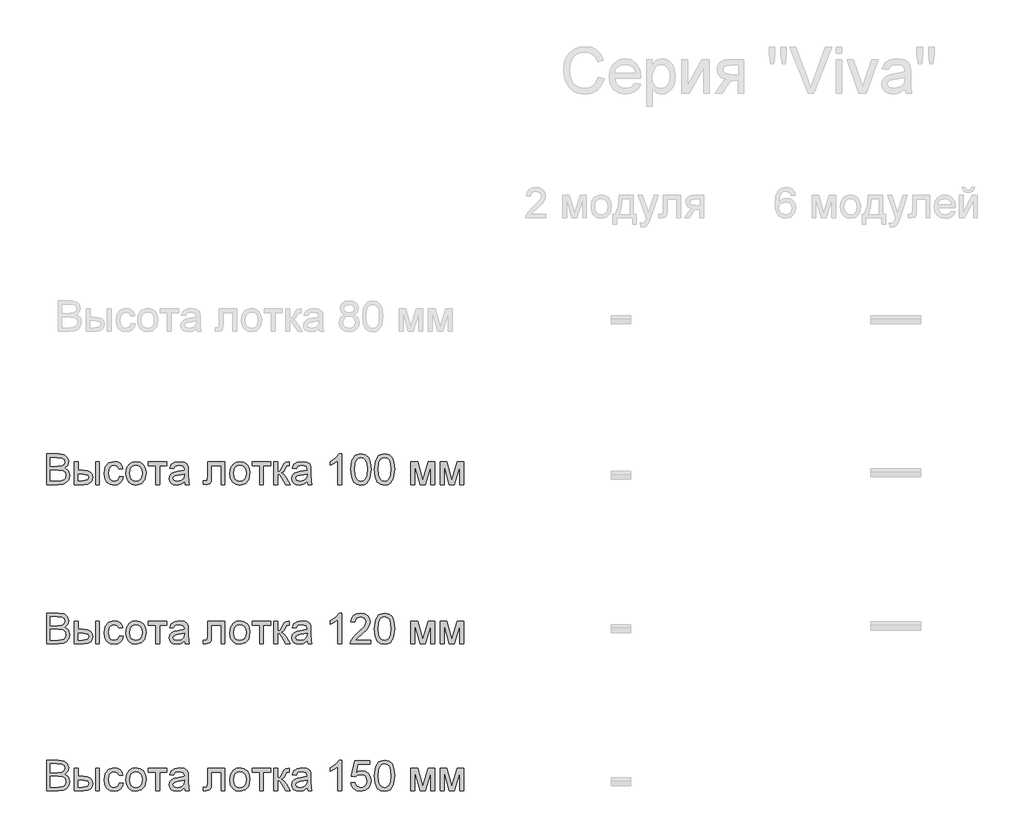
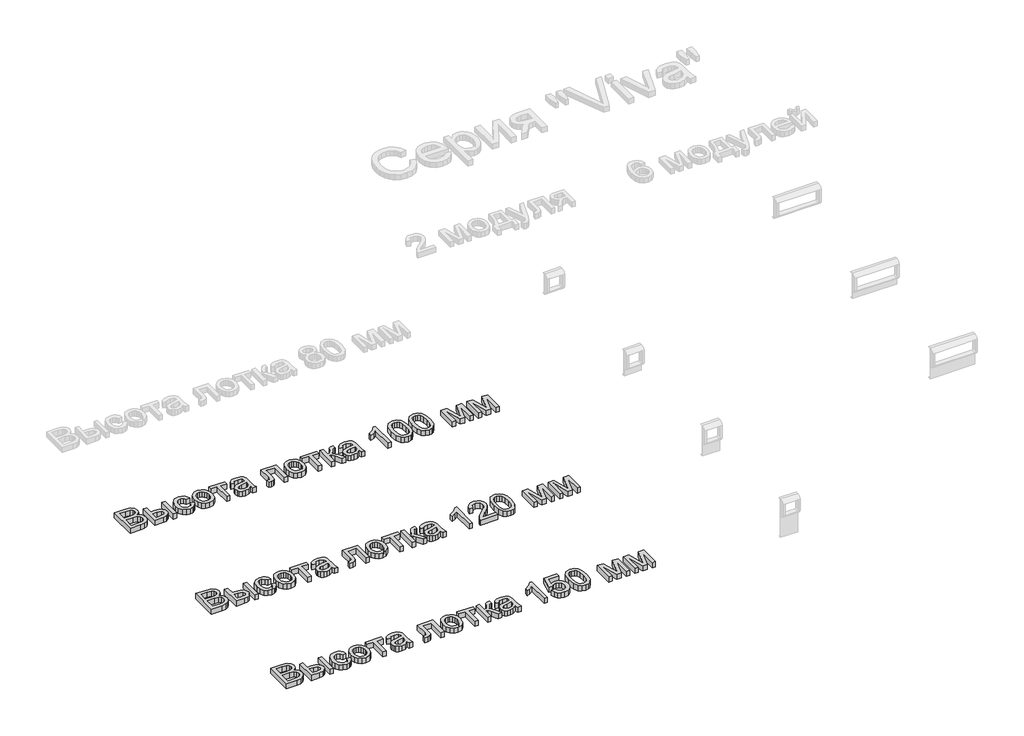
# One storey, part 7 of 28: 3 proxies.
"""IFC4 building model written with IfcOpenShell, lengths in millimetres."""

from ifc_helpers import new_model, si_unit, origin, origin_with_axes, place, context, project, spatial, polyline, outline, extrude, element, save

model = new_model("IFC4")

# Units and contexts
model_context = context("Model", 3, world=origin())
ifc_project = project(units=[si_unit("LENGTHUNIT", "METRE", prefix="MILLI")], contexts=[model_context])

# Site, building, storey
site = spatial("IfcSite", under=ifc_project)
building = spatial("IfcBuilding", under=site)
storey = spatial("IfcBuildingStorey", under=building, Name="Этаж 01", Elevation=0.0)

# Proxies
placement = place(None, origin())
element("IfcBuildingElementProxy", 1, Name="100 мм Arial", ObjectType="100 мм Arial", at=placement, inside=storey, context=model_context, shape_type="SweptSolid", body=[
    extrude(outline(polyline([(1837.0688437, -12466.5703412), (1837.0688437, -12366.114031), (1875.4021476, -12366.114031), (1894.1763921, -12369.0693497), (1905.2619029, -12378.156035), (1909.2718166, -12391.0073794), (1905.899565, -12402.742815), (1895.7092337, -12411.6332966), (1908.0823315, -12421.0020247), (1912.4110763, -12436.6247468), (1909.4557576, -12450.126016), (1902.1349059, -12459.7399988), (1891.2088107, -12464.8412958), (1875.107842, -12466.5703412), (1837.0688437, -12466.5703412)]), holes=[polyline([(1849.6258825, -12406.924407), (1872.5571935, -12406.924407), (1885.9480981, -12405.8452865), (1894.0047138, -12401.1977106), (1896.7147778, -12393.0184676), (1894.1886548, -12384.8269619), (1886.9536422, -12379.9831823), (1870.8158854, -12378.6710698), (1849.6258825, -12378.6710698), (1849.6258825, -12406.924407)]), polyline([(1849.6258825, -12454.0133024), (1875.3776221, -12454.0133024), (1884.6972993, -12453.5227931), (1892.5822368, -12450.7882036), (1897.8061611, -12445.20866), (1899.8540375, -12436.7473741), (1897.4505418, -12426.9862385), (1889.6637063, -12421.1614402), (1874.1513488, -12419.4814458), (1849.6258825, -12419.4814458), (1849.6258825, -12454.0133024)])]), origin_with_axes(), (0.0, 0.0, 1.0), 20.0),
    extrude(outline(polyline([(1997.171088, -12392.7977384), (2009.7281268, -12392.7977384), (2009.7281268, -12466.5703412), (1997.171088, -12466.5703412), (1997.171088, -12392.7977384)])), origin_with_axes(), (0.0, 0.0, 1.0), 20.0),
    extrude(outline(polyline([(1928.1073748, -12392.7977384), (1940.6644135, -12392.7977384), (1940.6644135, -12419.4814458), (1956.1890337, -12419.4814458), (1969.6075295, -12421.0541413), (1979.5495404, -12425.7722279), (1985.7023668, -12433.2555608), (1987.7533089, -12443.1239954), (1986.0334606, -12452.1095131), (1980.8739156, -12459.6909479), (1971.9374488, -12464.8504929), (1958.886835, -12466.5703412), (1928.1073748, -12466.5703412), (1928.1073748, -12392.7977384)]), holes=[polyline([(1940.6644135, -12454.0133024), (1953.5648088, -12454.0133024), (1970.2176005, -12451.3768148), (1975.1962702, -12443.1485208), (1971.5051875, -12435.4229989), (1955.2080151, -12432.0384846), (1940.6644135, -12432.0384846), (1940.6644135, -12454.0133024)])]), origin_with_axes(), (0.0, 0.0, 1.0), 20.0),
    extrude(outline(polyline([(2075.6525803, -12439.8866338), (2088.2096191, -12441.4562636), (2084.7086087, -12452.6245479), (2078.1296524, -12461.064374), (2069.0920181, -12466.3710718), (2058.2149737, -12468.139971), (2044.8577916, -12465.672096), (2034.4130086, -12458.2684708), (2027.6715711, -12446.254058), (2025.4244252, -12429.9538199), (2029.2626607, -12409.0949108), (2040.9613082, -12395.6917434), (2058.0432955, -12391.2281086), (2068.6536253, -12392.7609502), (2077.136371, -12397.3594752), (2083.2217524, -12404.7784287), (2086.6399892, -12414.7725563), (2074.0829505, -12416.3421861), (2068.2581522, -12406.9366698), (2058.1413973, -12403.7851473), (2050.0265337, -12405.3363831), (2043.5855331, -12409.9900903), (2039.3824813, -12417.9976551), (2037.981464, -12429.6104634), (2039.3518244, -12441.3796216), (2043.4629057, -12449.4147775), (2049.7874104, -12454.0408936), (2057.7980408, -12455.5829323), (2069.6315783, -12451.732434), (2075.6525803, -12439.8866338)])), origin_with_axes(), (0.0, 0.0, 1.0), 20.0),
    extrude(outline(polyline([(2096.0577683, -12429.6840398), (2098.7739637, -12411.8969453), (2106.9225499, -12399.3950889), (2116.9902538, -12393.2698536), (2129.0445205, -12391.2281086), (2142.2361557, -12393.7143777), (2152.7729092, -12401.1731852), (2159.6798937, -12413.0159197), (2161.9822218, -12428.6539702), (2157.9109944, -12450.9966701), (2146.0529314, -12463.639548), (2129.0445205, -12468.139971), (2115.6934698, -12465.6628989), (2105.168979, -12458.2316826), (2098.335571, -12446.1406277), (2096.0577683, -12429.6840398)]), holes=[polyline([(2108.6148071, -12429.6595143), (2110.0679409, -12441.0240023), (2114.4273426, -12449.1204719), (2120.9879048, -12453.9673172), (2129.0445205, -12455.5829323), (2137.064348, -12453.9581201), (2143.6126475, -12449.0836837), (2147.9720492, -12440.8799152), (2149.4251831, -12429.2671069), (2147.9628521, -12418.2337127), (2143.5758593, -12410.2476077), (2137.0183628, -12405.4007624), (2129.0445205, -12403.7851473), (2120.9879048, -12405.3946311), (2114.4273426, -12410.2230823), (2110.0679409, -12418.3011577), (2108.6148071, -12429.6595143)])]), origin_with_axes(), (0.0, 0.0, 1.0), 20.0),
    extrude(outline(polyline([(2169.8303711, -12392.7977384), (2229.4763052, -12392.7977384), (2229.4763052, -12405.3547772), (2205.9318575, -12405.3547772), (2205.9318575, -12466.5703412), (2193.3748188, -12466.5703412), (2193.3748188, -12405.3547772), (2169.8303711, -12405.3547772), (2169.8303711, -12392.7977384)])), origin_with_axes(), (0.0, 0.0, 1.0), 20.0),
    extrude(outline(polyline([(2287.5526095, -12457.1525621), (2275.3757155, -12465.6628989), (2261.9234972, -12468.139971), (2251.4296633, -12466.6500489), (2243.688813, -12462.1802827), (2238.9155441, -12455.3928599), (2237.3244544, -12446.9499681), (2239.7279501, -12437.0171542), (2246.0432577, -12429.8066671), (2254.8356374, -12425.6863888), (2265.700419, -12423.7979279), (2287.4790331, -12419.4814458), (2287.5526095, -12416.6855426), (2284.0945188, -12407.4149164), (2270.2131048, -12403.7851473), (2257.5089132, -12406.2009058), (2251.4511231, -12414.7725563), (2238.8940843, -12413.2029264), (2244.3264751, -12400.9401932), (2255.2648331, -12393.7542316), (2271.8317856, -12391.2281086), (2287.0498375, -12393.459926), (2295.6460134, -12399.0639951), (2299.4965116, -12407.5865946), (2300.1096483, -12418.5740035), (2300.1096483, -12434.1967256), (2300.7473104, -12456.0121279), (2303.248908, -12466.5703412), (2290.6918692, -12466.5703412), (2287.5526095, -12457.1525621)]), holes=[polyline([(2287.5526095, -12432.0384846), (2267.2945743, -12435.8889828), (2256.4911064, -12437.9245965), (2251.5982759, -12441.2355344), (2249.8814932, -12446.0670513), (2253.6216268, -12452.8606055), (2264.596773, -12455.5829323), (2277.3009646, -12452.5785626), (2285.4924703, -12445.3067619), (2287.4790331, -12435.5946772), (2287.5526095, -12432.0384846)])]), origin_with_axes(), (0.0, 0.0, 1.0), 20.0),
    extrude(outline(polyline([(2362.8948421, -12392.7977384), (2419.4015166, -12392.7977384), (2419.4015166, -12466.4967648), (2406.8444778, -12466.4967648), (2406.8444778, -12405.3547772), (2375.4518809, -12405.3547772), (2375.4518809, -12440.5488214), (2374.6057523, -12456.7846801), (2369.9581764, -12463.639548), (2358.9707675, -12466.5703412), (2348.7681735, -12465.9326791), (2348.7681735, -12454.0133024), (2354.3845053, -12454.0133024), (2360.0621508, -12453.2407502), (2362.3307564, -12450.7882036), (2362.8948421, -12439.8375829), (2362.8948421, -12392.7977384)])), origin_with_axes(), (0.0, 0.0, 1.0), 20.0),
    extrude(outline(polyline([(2435.0978151, -12429.6840398), (2437.8140105, -12411.8969453), (2445.9625966, -12399.3950889), (2456.0303006, -12393.2698536), (2468.0845673, -12391.2281086), (2481.2762025, -12393.7143777), (2491.812956, -12401.1731852), (2498.7199404, -12413.0159197), (2501.0222686, -12428.6539702), (2496.9510412, -12450.9966701), (2485.0929782, -12463.639548), (2468.0845673, -12468.139971), (2454.7335165, -12465.6628989), (2444.2090258, -12458.2316826), (2437.3756177, -12446.1406277), (2435.0978151, -12429.6840398)]), holes=[polyline([(2447.6548538, -12429.6595143), (2449.1079877, -12441.0240023), (2453.4673893, -12449.1204719), (2460.0279516, -12453.9673172), (2468.0845673, -12455.5829323), (2476.1043948, -12453.9581201), (2482.6526943, -12449.0836837), (2487.0120959, -12440.8799152), (2488.4652298, -12429.2671069), (2487.0028989, -12418.2337127), (2482.6159061, -12410.2476077), (2476.0584095, -12405.4007624), (2468.0845673, -12403.7851473), (2460.0279516, -12405.3946311), (2453.4673893, -12410.2230823), (2449.1079877, -12418.3011577), (2447.6548538, -12429.6595143)])]), origin_with_axes(), (0.0, 0.0, 1.0), 20.0),
    extrude(outline(polyline([(2508.8704178, -12392.7977384), (2568.516352, -12392.7977384), (2568.516352, -12405.3547772), (2544.9719043, -12405.3547772), (2544.9719043, -12466.5703412), (2532.4148655, -12466.5703412), (2532.4148655, -12405.3547772), (2508.8704178, -12405.3547772), (2508.8704178, -12392.7977384)])), origin_with_axes(), (0.0, 0.0, 1.0), 20.0),
    extrude(outline(polyline([(2579.5037609, -12392.7977384), (2592.0607997, -12392.7977384), (2592.0607997, -12424.1903353), (2600.4730346, -12421.9339924), (2607.3646907, -12408.7883425), (2613.0913871, -12397.4453143), (2618.1436331, -12393.7542316), (2627.3284203, -12392.7977384), (2629.731916, -12392.7977384), (2629.731916, -12405.4283536), (2626.3474016, -12405.3547772), (2620.216035, -12406.6791524), (2615.899553, -12414.9442345), (2610.8350442, -12423.883767), (2603.7349216, -12428.2615628), (2611.6566473, -12433.1482619), (2619.4312201, -12443.4428264), (2632.8711757, -12466.5703412), (2618.5973542, -12466.5703412), (2605.4271788, -12443.9333357), (2598.8053029, -12434.3561411), (2592.0607997, -12432.0384846), (2592.0607997, -12466.5703412), (2579.5037609, -12466.5703412), (2579.5037609, -12392.7977384)])), origin_with_axes(), (0.0, 0.0, 1.0), 20.0),
    extrude(outline(polyline([(2687.8082203, -12457.1525621), (2675.6313262, -12465.6628989), (2662.1791079, -12468.139971), (2651.685274, -12466.6500489), (2643.9444237, -12462.1802827), (2639.1711548, -12455.3928599), (2637.5800652, -12446.9499681), (2639.9835609, -12437.0171542), (2646.2988685, -12429.8066671), (2655.0912482, -12425.6863888), (2665.9560298, -12423.7979279), (2687.7346439, -12419.4814458), (2687.8082203, -12416.6855426), (2684.3501295, -12407.4149164), (2670.4687156, -12403.7851473), (2657.764524, -12406.2009058), (2651.7067338, -12414.7725563), (2639.149695, -12413.2029264), (2644.5820858, -12400.9401932), (2655.5204438, -12393.7542316), (2672.0873963, -12391.2281086), (2687.3054482, -12393.459926), (2695.9016242, -12399.0639951), (2699.7521224, -12407.5865946), (2700.365259, -12418.5740035), (2700.365259, -12434.1967256), (2701.0029212, -12456.0121279), (2703.5045187, -12466.5703412), (2690.94748, -12466.5703412), (2687.8082203, -12457.1525621)]), holes=[polyline([(2687.8082203, -12432.0384846), (2667.5501851, -12435.8889828), (2656.7467171, -12437.9245965), (2651.8538866, -12441.2355344), (2650.137104, -12446.0670513), (2653.8772376, -12452.8606055), (2664.8523838, -12455.5829323), (2677.5565753, -12452.5785626), (2685.7480811, -12445.3067619), (2687.7346439, -12435.5946772), (2687.8082203, -12432.0384846)])]), origin_with_axes(), (0.0, 0.0, 1.0), 20.0),
    extrude(outline(polyline([(2800.8215692, -12466.5703412), (2788.2645304, -12466.5703412), (2788.2645304, -12388.2850526), (2776.3696792, -12396.7586012), (2763.1504529, -12403.0984343), (2763.1504529, -12391.2281086), (2781.5568154, -12379.4804102), (2792.7281653, -12366.114031), (2800.8215692, -12366.114031), (2800.8215692, -12466.5703412)])), origin_with_axes(), (0.0, 0.0, 1.0), 20.0),
    extrude(outline(polyline([(2830.6445363, -12417.1515265), (2834.335619, -12388.2482644), (2845.2985024, -12371.58321), (2863.606763, -12366.114031), (2878.2729919, -12369.3513926), (2888.4020095, -12378.6833325), (2894.2881214, -12393.5457651), (2896.5689898, -12417.1515265), (2892.9146953, -12445.9321613), (2881.9886001, -12462.6340038), (2873.7572404, -12466.7634792), (2863.606763, -12468.139971), (2850.5592149, -12465.7487381), (2840.6509265, -12458.5750392), (2833.1461338, -12441.5850223), (2830.6445363, -12417.1515265)]), holes=[polyline([(2843.201575, -12417.127001), (2844.673103, -12436.8791985), (2849.087687, -12448.3111315), (2855.6605119, -12453.7649821), (2863.606763, -12455.5829323), (2871.5530141, -12453.7588507), (2878.1258391, -12448.286606), (2882.5404231, -12436.8485417), (2884.011951, -12417.127001), (2882.589474, -12397.8193277), (2878.3220428, -12386.2984898), (2871.7614806, -12380.5779248), (2863.4596102, -12378.6710698), (2855.5991983, -12380.3510642), (2849.2838907, -12385.3910476), (2844.722154, -12397.6292553), (2843.201575, -12417.127001)])]), origin_with_axes(), (0.0, 0.0, 1.0), 20.0),
    extrude(outline(polyline([(2907.5563987, -12417.1515265), (2911.2474814, -12388.2482644), (2922.2103649, -12371.58321), (2940.5186255, -12366.114031), (2955.1848544, -12369.3513926), (2965.313872, -12378.6833325), (2971.1999839, -12393.5457651), (2973.4808523, -12417.1515265), (2969.8265578, -12445.9321613), (2958.9004625, -12462.6340038), (2950.6691029, -12466.7634792), (2940.5186255, -12468.139971), (2927.4710774, -12465.7487381), (2917.562789, -12458.5750392), (2910.0579963, -12441.5850223), (2907.5563987, -12417.1515265)]), holes=[polyline([(2920.1134375, -12417.127001), (2921.5849655, -12436.8791985), (2925.9995494, -12448.3111315), (2932.5723744, -12453.7649821), (2940.5186255, -12455.5829323), (2948.4648766, -12453.7588507), (2955.0377016, -12448.286606), (2959.4522855, -12436.8485417), (2960.9238135, -12417.127001), (2959.5013364, -12397.8193277), (2955.2339053, -12386.2984898), (2948.6733431, -12380.5779248), (2940.3714727, -12378.6710698), (2932.5110607, -12380.3510642), (2926.1957531, -12385.3910476), (2921.6340164, -12397.6292553), (2920.1134375, -12417.127001)])]), origin_with_axes(), (0.0, 0.0, 1.0), 20.0),
    extrude(outline(polyline([(3026.848267, -12392.7977384), (3048.4552029, -12392.7977384), (3065.1079945, -12451.8550614), (3083.0606359, -12392.7977384), (3103.7601295, -12392.7977384), (3103.7601295, -12466.5703412), (3091.2030907, -12466.5703412), (3091.2030907, -12407.1696617), (3073.1523475, -12466.5703412), (3056.6712341, -12466.5703412), (3039.4053058, -12404.3247076), (3039.4053058, -12466.5703412), (3026.848267, -12466.5703412), (3026.848267, -12392.7977384)])), origin_with_axes(), (0.0, 0.0, 1.0), 20.0),
    extrude(outline(polyline([(3122.5956876, -12392.7977384), (3144.2026235, -12392.7977384), (3160.8554151, -12451.8550614), (3178.8080565, -12392.7977384), (3199.5075501, -12392.7977384), (3199.5075501, -12466.5703412), (3186.9505113, -12466.5703412), (3186.9505113, -12407.1696617), (3168.8997681, -12466.5703412), (3152.4186547, -12466.5703412), (3135.1527264, -12404.3247076), (3135.1527264, -12466.5703412), (3122.5956876, -12466.5703412), (3122.5956876, -12392.7977384)])), origin_with_axes(), (0.0, 0.0, 1.0), 20.0),
])
element("IfcBuildingElementProxy", 2, Name="100 мм Arial", ObjectType="100 мм Arial", at=placement, inside=storey, context=model_context, shape_type="SweptSolid", body=[
    extrude(outline(polyline([(1837.0688437, -12986.5703412), (1837.0688437, -12886.114031), (1875.4021476, -12886.114031), (1894.1763921, -12889.0693497), (1905.2619029, -12898.156035), (1909.2718166, -12911.0073794), (1905.899565, -12922.742815), (1895.7092337, -12931.6332966), (1908.0823315, -12941.0020247), (1912.4110763, -12956.6247468), (1909.4557576, -12970.126016), (1902.1349059, -12979.7399988), (1891.2088107, -12984.8412958), (1875.107842, -12986.5703412), (1837.0688437, -12986.5703412)]), holes=[polyline([(1849.6258825, -12926.924407), (1872.5571935, -12926.924407), (1885.9480981, -12925.8452865), (1894.0047138, -12921.1977106), (1896.7147778, -12913.0184676), (1894.1886548, -12904.8269619), (1886.9536422, -12899.9831823), (1870.8158854, -12898.6710698), (1849.6258825, -12898.6710698), (1849.6258825, -12926.924407)]), polyline([(1849.6258825, -12974.0133024), (1875.3776221, -12974.0133024), (1884.6972993, -12973.5227931), (1892.5822368, -12970.7882036), (1897.8061611, -12965.20866), (1899.8540375, -12956.7473741), (1897.4505418, -12946.9862385), (1889.6637063, -12941.1614402), (1874.1513488, -12939.4814458), (1849.6258825, -12939.4814458), (1849.6258825, -12974.0133024)])]), origin_with_axes(), (0.0, 0.0, 1.0), 20.0),
    extrude(outline(polyline([(1997.171088, -12912.7977384), (2009.7281268, -12912.7977384), (2009.7281268, -12986.5703412), (1997.171088, -12986.5703412), (1997.171088, -12912.7977384)])), origin_with_axes(), (0.0, 0.0, 1.0), 20.0),
    extrude(outline(polyline([(1928.1073748, -12912.7977384), (1940.6644135, -12912.7977384), (1940.6644135, -12939.4814458), (1956.1890337, -12939.4814458), (1969.6075295, -12941.0541413), (1979.5495404, -12945.7722279), (1985.7023668, -12953.2555608), (1987.7533089, -12963.1239954), (1986.0334606, -12972.1095131), (1980.8739156, -12979.6909479), (1971.9374488, -12984.8504929), (1958.886835, -12986.5703412), (1928.1073748, -12986.5703412), (1928.1073748, -12912.7977384)]), holes=[polyline([(1940.6644135, -12974.0133024), (1953.5648088, -12974.0133024), (1970.2176005, -12971.3768148), (1975.1962702, -12963.1485208), (1971.5051875, -12955.4229989), (1955.2080151, -12952.0384846), (1940.6644135, -12952.0384846), (1940.6644135, -12974.0133024)])]), origin_with_axes(), (0.0, 0.0, 1.0), 20.0),
    extrude(outline(polyline([(2075.6525803, -12959.8866338), (2088.2096191, -12961.4562636), (2084.7086087, -12972.6245479), (2078.1296524, -12981.064374), (2069.0920181, -12986.3710718), (2058.2149737, -12988.139971), (2044.8577916, -12985.672096), (2034.4130086, -12978.2684708), (2027.6715711, -12966.254058), (2025.4244252, -12949.9538199), (2029.2626607, -12929.0949108), (2040.9613082, -12915.6917434), (2058.0432955, -12911.2281086), (2068.6536253, -12912.7609502), (2077.136371, -12917.3594752), (2083.2217524, -12924.7784287), (2086.6399892, -12934.7725563), (2074.0829505, -12936.3421861), (2068.2581522, -12926.9366698), (2058.1413973, -12923.7851473), (2050.0265337, -12925.3363831), (2043.5855331, -12929.9900903), (2039.3824813, -12937.9976551), (2037.981464, -12949.6104634), (2039.3518244, -12961.3796216), (2043.4629057, -12969.4147775), (2049.7874104, -12974.0408936), (2057.7980408, -12975.5829323), (2069.6315783, -12971.732434), (2075.6525803, -12959.8866338)])), origin_with_axes(), (0.0, 0.0, 1.0), 20.0),
    extrude(outline(polyline([(2096.0577683, -12949.6840398), (2098.7739637, -12931.8969453), (2106.9225499, -12919.3950889), (2116.9902538, -12913.2698536), (2129.0445205, -12911.2281086), (2142.2361557, -12913.7143777), (2152.7729092, -12921.1731852), (2159.6798937, -12933.0159197), (2161.9822218, -12948.6539702), (2157.9109944, -12970.9966701), (2146.0529314, -12983.639548), (2129.0445205, -12988.139971), (2115.6934698, -12985.6628989), (2105.168979, -12978.2316826), (2098.335571, -12966.1406277), (2096.0577683, -12949.6840398)]), holes=[polyline([(2108.6148071, -12949.6595143), (2110.0679409, -12961.0240023), (2114.4273426, -12969.1204719), (2120.9879048, -12973.9673172), (2129.0445205, -12975.5829323), (2137.064348, -12973.9581201), (2143.6126475, -12969.0836837), (2147.9720492, -12960.8799152), (2149.4251831, -12949.2671069), (2147.9628521, -12938.2337127), (2143.5758593, -12930.2476077), (2137.0183628, -12925.4007624), (2129.0445205, -12923.7851473), (2120.9879048, -12925.3946311), (2114.4273426, -12930.2230823), (2110.0679409, -12938.3011577), (2108.6148071, -12949.6595143)])]), origin_with_axes(), (0.0, 0.0, 1.0), 20.0),
    extrude(outline(polyline([(2169.8303711, -12912.7977384), (2229.4763052, -12912.7977384), (2229.4763052, -12925.3547772), (2205.9318575, -12925.3547772), (2205.9318575, -12986.5703412), (2193.3748188, -12986.5703412), (2193.3748188, -12925.3547772), (2169.8303711, -12925.3547772), (2169.8303711, -12912.7977384)])), origin_with_axes(), (0.0, 0.0, 1.0), 20.0),
    extrude(outline(polyline([(2287.5526095, -12977.1525621), (2275.3757155, -12985.6628989), (2261.9234972, -12988.139971), (2251.4296633, -12986.6500489), (2243.688813, -12982.1802827), (2238.9155441, -12975.3928599), (2237.3244544, -12966.9499681), (2239.7279501, -12957.0171542), (2246.0432577, -12949.8066671), (2254.8356374, -12945.6863888), (2265.700419, -12943.7979279), (2287.4790331, -12939.4814458), (2287.5526095, -12936.6855426), (2284.0945188, -12927.4149164), (2270.2131048, -12923.7851473), (2257.5089132, -12926.2009058), (2251.4511231, -12934.7725563), (2238.8940843, -12933.2029264), (2244.3264751, -12920.9401932), (2255.2648331, -12913.7542316), (2271.8317856, -12911.2281086), (2287.0498375, -12913.459926), (2295.6460134, -12919.0639951), (2299.4965116, -12927.5865946), (2300.1096483, -12938.5740035), (2300.1096483, -12954.1967256), (2300.7473104, -12976.0121279), (2303.248908, -12986.5703412), (2290.6918692, -12986.5703412), (2287.5526095, -12977.1525621)]), holes=[polyline([(2287.5526095, -12952.0384846), (2267.2945743, -12955.8889828), (2256.4911064, -12957.9245965), (2251.5982759, -12961.2355344), (2249.8814932, -12966.0670513), (2253.6216268, -12972.8606055), (2264.596773, -12975.5829323), (2277.3009646, -12972.5785626), (2285.4924703, -12965.3067619), (2287.4790331, -12955.5946772), (2287.5526095, -12952.0384846)])]), origin_with_axes(), (0.0, 0.0, 1.0), 20.0),
    extrude(outline(polyline([(2362.8948421, -12912.7977384), (2419.4015166, -12912.7977384), (2419.4015166, -12986.4967648), (2406.8444778, -12986.4967648), (2406.8444778, -12925.3547772), (2375.4518809, -12925.3547772), (2375.4518809, -12960.5488214), (2374.6057523, -12976.7846801), (2369.9581764, -12983.639548), (2358.9707675, -12986.5703412), (2348.7681735, -12985.9326791), (2348.7681735, -12974.0133024), (2354.3845053, -12974.0133024), (2360.0621508, -12973.2407502), (2362.3307564, -12970.7882036), (2362.8948421, -12959.8375829), (2362.8948421, -12912.7977384)])), origin_with_axes(), (0.0, 0.0, 1.0), 20.0),
    extrude(outline(polyline([(2435.0978151, -12949.6840398), (2437.8140105, -12931.8969453), (2445.9625966, -12919.3950889), (2456.0303006, -12913.2698536), (2468.0845673, -12911.2281086), (2481.2762025, -12913.7143777), (2491.812956, -12921.1731852), (2498.7199404, -12933.0159197), (2501.0222686, -12948.6539702), (2496.9510412, -12970.9966701), (2485.0929782, -12983.639548), (2468.0845673, -12988.139971), (2454.7335165, -12985.6628989), (2444.2090258, -12978.2316826), (2437.3756177, -12966.1406277), (2435.0978151, -12949.6840398)]), holes=[polyline([(2447.6548538, -12949.6595143), (2449.1079877, -12961.0240023), (2453.4673893, -12969.1204719), (2460.0279516, -12973.9673172), (2468.0845673, -12975.5829323), (2476.1043948, -12973.9581201), (2482.6526943, -12969.0836837), (2487.0120959, -12960.8799152), (2488.4652298, -12949.2671069), (2487.0028989, -12938.2337127), (2482.6159061, -12930.2476077), (2476.0584095, -12925.4007624), (2468.0845673, -12923.7851473), (2460.0279516, -12925.3946311), (2453.4673893, -12930.2230823), (2449.1079877, -12938.3011577), (2447.6548538, -12949.6595143)])]), origin_with_axes(), (0.0, 0.0, 1.0), 20.0),
    extrude(outline(polyline([(2508.8704178, -12912.7977384), (2568.516352, -12912.7977384), (2568.516352, -12925.3547772), (2544.9719043, -12925.3547772), (2544.9719043, -12986.5703412), (2532.4148655, -12986.5703412), (2532.4148655, -12925.3547772), (2508.8704178, -12925.3547772), (2508.8704178, -12912.7977384)])), origin_with_axes(), (0.0, 0.0, 1.0), 20.0),
    extrude(outline(polyline([(2579.5037609, -12912.7977384), (2592.0607997, -12912.7977384), (2592.0607997, -12944.1903353), (2600.4730346, -12941.9339924), (2607.3646907, -12928.7883425), (2613.0913871, -12917.4453143), (2618.1436331, -12913.7542316), (2627.3284203, -12912.7977384), (2629.731916, -12912.7977384), (2629.731916, -12925.4283536), (2626.3474016, -12925.3547772), (2620.216035, -12926.6791524), (2615.899553, -12934.9442345), (2610.8350442, -12943.883767), (2603.7349216, -12948.2615628), (2611.6566473, -12953.1482619), (2619.4312201, -12963.4428264), (2632.8711757, -12986.5703412), (2618.5973542, -12986.5703412), (2605.4271788, -12963.9333357), (2598.8053029, -12954.3561411), (2592.0607997, -12952.0384846), (2592.0607997, -12986.5703412), (2579.5037609, -12986.5703412), (2579.5037609, -12912.7977384)])), origin_with_axes(), (0.0, 0.0, 1.0), 20.0),
    extrude(outline(polyline([(2687.8082203, -12977.1525621), (2675.6313262, -12985.6628989), (2662.1791079, -12988.139971), (2651.685274, -12986.6500489), (2643.9444237, -12982.1802827), (2639.1711548, -12975.3928599), (2637.5800652, -12966.9499681), (2639.9835609, -12957.0171542), (2646.2988685, -12949.8066671), (2655.0912482, -12945.6863888), (2665.9560298, -12943.7979279), (2687.7346439, -12939.4814458), (2687.8082203, -12936.6855426), (2684.3501295, -12927.4149164), (2670.4687156, -12923.7851473), (2657.764524, -12926.2009058), (2651.7067338, -12934.7725563), (2639.149695, -12933.2029264), (2644.5820858, -12920.9401932), (2655.5204438, -12913.7542316), (2672.0873963, -12911.2281086), (2687.3054482, -12913.459926), (2695.9016242, -12919.0639951), (2699.7521224, -12927.5865946), (2700.365259, -12938.5740035), (2700.365259, -12954.1967256), (2701.0029212, -12976.0121279), (2703.5045187, -12986.5703412), (2690.94748, -12986.5703412), (2687.8082203, -12977.1525621)]), holes=[polyline([(2687.8082203, -12952.0384846), (2667.5501851, -12955.8889828), (2656.7467171, -12957.9245965), (2651.8538866, -12961.2355344), (2650.137104, -12966.0670513), (2653.8772376, -12972.8606055), (2664.8523838, -12975.5829323), (2677.5565753, -12972.5785626), (2685.7480811, -12965.3067619), (2687.7346439, -12955.5946772), (2687.8082203, -12952.0384846)])]), origin_with_axes(), (0.0, 0.0, 1.0), 20.0),
    extrude(outline(polyline([(2800.8215692, -12986.5703412), (2788.2645304, -12986.5703412), (2788.2645304, -12908.2850526), (2776.3696792, -12916.7586012), (2763.1504529, -12923.0984343), (2763.1504529, -12911.2281086), (2781.5568154, -12899.4804102), (2792.7281653, -12886.114031), (2800.8215692, -12886.114031), (2800.8215692, -12986.5703412)])), origin_with_axes(), (0.0, 0.0, 1.0), 20.0),
    extrude(outline(polyline([(2894.99936, -12974.0133024), (2894.99936, -12986.5703412), (2829.0749064, -12986.5703412), (2830.4238071, -12977.9128516), (2838.0512271, -12964.5832606), (2853.772051, -12950.0273963), (2875.4525633, -12929.1071735), (2880.8726913, -12914.8824031), (2875.7591316, -12903.3676966), (2862.4050152, -12898.6710698), (2848.486813, -12903.257332), (2843.201575, -12915.9369981), (2830.6445363, -12914.3673683), (2833.6887598, -12902.2211311), (2840.2707818, -12893.3490436), (2850.0472458, -12887.9227842), (2862.6747953, -12886.114031), (2875.3943153, -12888.1251193), (2885.1523852, -12894.158384), (2891.3603939, -12903.1714929), (2893.4297301, -12914.1221136), (2891.1979127, -12926.0292275), (2883.7789591, -12938.3410116), (2865.7895295, -12955.5456263), (2851.3440299, -12967.6244184), (2845.6786471, -12974.0133024), (2894.99936, -12974.0133024)])), origin_with_axes(), (0.0, 0.0, 1.0), 20.0),
    extrude(outline(polyline([(2907.5563987, -12937.1515265), (2911.2474814, -12908.2482644), (2922.2103649, -12891.58321), (2940.5186255, -12886.114031), (2955.1848544, -12889.3513926), (2965.313872, -12898.6833325), (2971.1999839, -12913.5457651), (2973.4808523, -12937.1515265), (2969.8265578, -12965.9321613), (2958.9004625, -12982.6340038), (2950.6691029, -12986.7634792), (2940.5186255, -12988.139971), (2927.4710774, -12985.7487381), (2917.562789, -12978.5750392), (2910.0579963, -12961.5850223), (2907.5563987, -12937.1515265)]), holes=[polyline([(2920.1134375, -12937.127001), (2921.5849655, -12956.8791985), (2925.9995494, -12968.3111315), (2932.5723744, -12973.7649821), (2940.5186255, -12975.5829323), (2948.4648766, -12973.7588507), (2955.0377016, -12968.286606), (2959.4522855, -12956.8485417), (2960.9238135, -12937.127001), (2959.5013364, -12917.8193277), (2955.2339053, -12906.2984898), (2948.6733431, -12900.5779248), (2940.3714727, -12898.6710698), (2932.5110607, -12900.3510642), (2926.1957531, -12905.3910476), (2921.6340164, -12917.6292553), (2920.1134375, -12937.127001)])]), origin_with_axes(), (0.0, 0.0, 1.0), 20.0),
    extrude(outline(polyline([(3026.848267, -12912.7977384), (3048.4552029, -12912.7977384), (3065.1079945, -12971.8550614), (3083.0606359, -12912.7977384), (3103.7601295, -12912.7977384), (3103.7601295, -12986.5703412), (3091.2030907, -12986.5703412), (3091.2030907, -12927.1696617), (3073.1523475, -12986.5703412), (3056.6712341, -12986.5703412), (3039.4053058, -12924.3247076), (3039.4053058, -12986.5703412), (3026.848267, -12986.5703412), (3026.848267, -12912.7977384)])), origin_with_axes(), (0.0, 0.0, 1.0), 20.0),
    extrude(outline(polyline([(3122.5956876, -12912.7977384), (3144.2026235, -12912.7977384), (3160.8554151, -12971.8550614), (3178.8080565, -12912.7977384), (3199.5075501, -12912.7977384), (3199.5075501, -12986.5703412), (3186.9505113, -12986.5703412), (3186.9505113, -12927.1696617), (3168.8997681, -12986.5703412), (3152.4186547, -12986.5703412), (3135.1527264, -12924.3247076), (3135.1527264, -12986.5703412), (3122.5956876, -12986.5703412), (3122.5956876, -12912.7977384)])), origin_with_axes(), (0.0, 0.0, 1.0), 20.0),
])
element("IfcBuildingElementProxy", 3, Name="100 мм Arial", ObjectType="100 мм Arial", at=placement, inside=storey, context=model_context, shape_type="SweptSolid", body=[
    extrude(outline(polyline([(1837.0688437, -13466.5703412), (1837.0688437, -13366.114031), (1875.4021476, -13366.114031), (1894.1763921, -13369.0693497), (1905.2619029, -13378.156035), (1909.2718166, -13391.0073794), (1905.899565, -13402.742815), (1895.7092337, -13411.6332966), (1908.0823315, -13421.0020247), (1912.4110763, -13436.6247468), (1909.4557576, -13450.126016), (1902.1349059, -13459.7399988), (1891.2088107, -13464.8412958), (1875.107842, -13466.5703412), (1837.0688437, -13466.5703412)]), holes=[polyline([(1849.6258825, -13406.924407), (1872.5571935, -13406.924407), (1885.9480981, -13405.8452865), (1894.0047138, -13401.1977106), (1896.7147778, -13393.0184676), (1894.1886548, -13384.8269619), (1886.9536422, -13379.9831823), (1870.8158854, -13378.6710698), (1849.6258825, -13378.6710698), (1849.6258825, -13406.924407)]), polyline([(1849.6258825, -13454.0133024), (1875.3776221, -13454.0133024), (1884.6972993, -13453.5227931), (1892.5822368, -13450.7882036), (1897.8061611, -13445.20866), (1899.8540375, -13436.7473741), (1897.4505418, -13426.9862385), (1889.6637063, -13421.1614402), (1874.1513488, -13419.4814458), (1849.6258825, -13419.4814458), (1849.6258825, -13454.0133024)])]), origin_with_axes(), (0.0, 0.0, 1.0), 20.0),
    extrude(outline(polyline([(1997.171088, -13392.7977384), (2009.7281268, -13392.7977384), (2009.7281268, -13466.5703412), (1997.171088, -13466.5703412), (1997.171088, -13392.7977384)])), origin_with_axes(), (0.0, 0.0, 1.0), 20.0),
    extrude(outline(polyline([(1928.1073748, -13392.7977384), (1940.6644135, -13392.7977384), (1940.6644135, -13419.4814458), (1956.1890337, -13419.4814458), (1969.6075295, -13421.0541413), (1979.5495404, -13425.7722279), (1985.7023668, -13433.2555608), (1987.7533089, -13443.1239954), (1986.0334606, -13452.1095131), (1980.8739156, -13459.6909479), (1971.9374488, -13464.8504929), (1958.886835, -13466.5703412), (1928.1073748, -13466.5703412), (1928.1073748, -13392.7977384)]), holes=[polyline([(1940.6644135, -13454.0133024), (1953.5648088, -13454.0133024), (1970.2176005, -13451.3768148), (1975.1962702, -13443.1485208), (1971.5051875, -13435.4229989), (1955.2080151, -13432.0384846), (1940.6644135, -13432.0384846), (1940.6644135, -13454.0133024)])]), origin_with_axes(), (0.0, 0.0, 1.0), 20.0),
    extrude(outline(polyline([(2075.6525803, -13439.8866338), (2088.2096191, -13441.4562636), (2084.7086087, -13452.6245479), (2078.1296524, -13461.064374), (2069.0920181, -13466.3710718), (2058.2149737, -13468.139971), (2044.8577916, -13465.672096), (2034.4130086, -13458.2684708), (2027.6715711, -13446.254058), (2025.4244252, -13429.9538199), (2029.2626607, -13409.0949108), (2040.9613082, -13395.6917434), (2058.0432955, -13391.2281086), (2068.6536253, -13392.7609502), (2077.136371, -13397.3594752), (2083.2217524, -13404.7784287), (2086.6399892, -13414.7725563), (2074.0829505, -13416.3421861), (2068.2581522, -13406.9366698), (2058.1413973, -13403.7851473), (2050.0265337, -13405.3363831), (2043.5855331, -13409.9900903), (2039.3824813, -13417.9976551), (2037.981464, -13429.6104634), (2039.3518244, -13441.3796216), (2043.4629057, -13449.4147775), (2049.7874104, -13454.0408936), (2057.7980408, -13455.5829323), (2069.6315783, -13451.732434), (2075.6525803, -13439.8866338)])), origin_with_axes(), (0.0, 0.0, 1.0), 20.0),
    extrude(outline(polyline([(2096.0577683, -13429.6840398), (2098.7739637, -13411.8969453), (2106.9225499, -13399.3950889), (2116.9902538, -13393.2698536), (2129.0445205, -13391.2281086), (2142.2361557, -13393.7143777), (2152.7729092, -13401.1731852), (2159.6798937, -13413.0159197), (2161.9822218, -13428.6539702), (2157.9109944, -13450.9966701), (2146.0529314, -13463.639548), (2129.0445205, -13468.139971), (2115.6934698, -13465.6628989), (2105.168979, -13458.2316826), (2098.335571, -13446.1406277), (2096.0577683, -13429.6840398)]), holes=[polyline([(2108.6148071, -13429.6595143), (2110.0679409, -13441.0240023), (2114.4273426, -13449.1204719), (2120.9879048, -13453.9673172), (2129.0445205, -13455.5829323), (2137.064348, -13453.9581201), (2143.6126475, -13449.0836837), (2147.9720492, -13440.8799152), (2149.4251831, -13429.2671069), (2147.9628521, -13418.2337127), (2143.5758593, -13410.2476077), (2137.0183628, -13405.4007624), (2129.0445205, -13403.7851473), (2120.9879048, -13405.3946311), (2114.4273426, -13410.2230823), (2110.0679409, -13418.3011577), (2108.6148071, -13429.6595143)])]), origin_with_axes(), (0.0, 0.0, 1.0), 20.0),
    extrude(outline(polyline([(2169.8303711, -13392.7977384), (2229.4763052, -13392.7977384), (2229.4763052, -13405.3547772), (2205.9318575, -13405.3547772), (2205.9318575, -13466.5703412), (2193.3748188, -13466.5703412), (2193.3748188, -13405.3547772), (2169.8303711, -13405.3547772), (2169.8303711, -13392.7977384)])), origin_with_axes(), (0.0, 0.0, 1.0), 20.0),
    extrude(outline(polyline([(2287.5526095, -13457.1525621), (2275.3757155, -13465.6628989), (2261.9234972, -13468.139971), (2251.4296633, -13466.6500489), (2243.688813, -13462.1802827), (2238.9155441, -13455.3928599), (2237.3244544, -13446.9499681), (2239.7279501, -13437.0171542), (2246.0432577, -13429.8066671), (2254.8356374, -13425.6863888), (2265.700419, -13423.7979279), (2287.4790331, -13419.4814458), (2287.5526095, -13416.6855426), (2284.0945188, -13407.4149164), (2270.2131048, -13403.7851473), (2257.5089132, -13406.2009058), (2251.4511231, -13414.7725563), (2238.8940843, -13413.2029264), (2244.3264751, -13400.9401932), (2255.2648331, -13393.7542316), (2271.8317856, -13391.2281086), (2287.0498375, -13393.459926), (2295.6460134, -13399.0639951), (2299.4965116, -13407.5865946), (2300.1096483, -13418.5740035), (2300.1096483, -13434.1967256), (2300.7473104, -13456.0121279), (2303.248908, -13466.5703412), (2290.6918692, -13466.5703412), (2287.5526095, -13457.1525621)]), holes=[polyline([(2287.5526095, -13432.0384846), (2267.2945743, -13435.8889828), (2256.4911064, -13437.9245965), (2251.5982759, -13441.2355344), (2249.8814932, -13446.0670513), (2253.6216268, -13452.8606055), (2264.596773, -13455.5829323), (2277.3009646, -13452.5785626), (2285.4924703, -13445.3067619), (2287.4790331, -13435.5946772), (2287.5526095, -13432.0384846)])]), origin_with_axes(), (0.0, 0.0, 1.0), 20.0),
    extrude(outline(polyline([(2362.8948421, -13392.7977384), (2419.4015166, -13392.7977384), (2419.4015166, -13466.4967648), (2406.8444778, -13466.4967648), (2406.8444778, -13405.3547772), (2375.4518809, -13405.3547772), (2375.4518809, -13440.5488214), (2374.6057523, -13456.7846801), (2369.9581764, -13463.639548), (2358.9707675, -13466.5703412), (2348.7681735, -13465.9326791), (2348.7681735, -13454.0133024), (2354.3845053, -13454.0133024), (2360.0621508, -13453.2407502), (2362.3307564, -13450.7882036), (2362.8948421, -13439.8375829), (2362.8948421, -13392.7977384)])), origin_with_axes(), (0.0, 0.0, 1.0), 20.0),
    extrude(outline(polyline([(2435.0978151, -13429.6840398), (2437.8140105, -13411.8969453), (2445.9625966, -13399.3950889), (2456.0303006, -13393.2698536), (2468.0845673, -13391.2281086), (2481.2762025, -13393.7143777), (2491.812956, -13401.1731852), (2498.7199404, -13413.0159197), (2501.0222686, -13428.6539702), (2496.9510412, -13450.9966701), (2485.0929782, -13463.639548), (2468.0845673, -13468.139971), (2454.7335165, -13465.6628989), (2444.2090258, -13458.2316826), (2437.3756177, -13446.1406277), (2435.0978151, -13429.6840398)]), holes=[polyline([(2447.6548538, -13429.6595143), (2449.1079877, -13441.0240023), (2453.4673893, -13449.1204719), (2460.0279516, -13453.9673172), (2468.0845673, -13455.5829323), (2476.1043948, -13453.9581201), (2482.6526943, -13449.0836837), (2487.0120959, -13440.8799152), (2488.4652298, -13429.2671069), (2487.0028989, -13418.2337127), (2482.6159061, -13410.2476077), (2476.0584095, -13405.4007624), (2468.0845673, -13403.7851473), (2460.0279516, -13405.3946311), (2453.4673893, -13410.2230823), (2449.1079877, -13418.3011577), (2447.6548538, -13429.6595143)])]), origin_with_axes(), (0.0, 0.0, 1.0), 20.0),
    extrude(outline(polyline([(2508.8704178, -13392.7977384), (2568.516352, -13392.7977384), (2568.516352, -13405.3547772), (2544.9719043, -13405.3547772), (2544.9719043, -13466.5703412), (2532.4148655, -13466.5703412), (2532.4148655, -13405.3547772), (2508.8704178, -13405.3547772), (2508.8704178, -13392.7977384)])), origin_with_axes(), (0.0, 0.0, 1.0), 20.0),
    extrude(outline(polyline([(2579.5037609, -13392.7977384), (2592.0607997, -13392.7977384), (2592.0607997, -13424.1903353), (2600.4730346, -13421.9339924), (2607.3646907, -13408.7883425), (2613.0913871, -13397.4453143), (2618.1436331, -13393.7542316), (2627.3284203, -13392.7977384), (2629.731916, -13392.7977384), (2629.731916, -13405.4283536), (2626.3474016, -13405.3547772), (2620.216035, -13406.6791524), (2615.899553, -13414.9442345), (2610.8350442, -13423.883767), (2603.7349216, -13428.2615628), (2611.6566473, -13433.1482619), (2619.4312201, -13443.4428264), (2632.8711757, -13466.5703412), (2618.5973542, -13466.5703412), (2605.4271788, -13443.9333357), (2598.8053029, -13434.3561411), (2592.0607997, -13432.0384846), (2592.0607997, -13466.5703412), (2579.5037609, -13466.5703412), (2579.5037609, -13392.7977384)])), origin_with_axes(), (0.0, 0.0, 1.0), 20.0),
    extrude(outline(polyline([(2687.8082203, -13457.1525621), (2675.6313262, -13465.6628989), (2662.1791079, -13468.139971), (2651.685274, -13466.6500489), (2643.9444237, -13462.1802827), (2639.1711548, -13455.3928599), (2637.5800652, -13446.9499681), (2639.9835609, -13437.0171542), (2646.2988685, -13429.8066671), (2655.0912482, -13425.6863888), (2665.9560298, -13423.7979279), (2687.7346439, -13419.4814458), (2687.8082203, -13416.6855426), (2684.3501295, -13407.4149164), (2670.4687156, -13403.7851473), (2657.764524, -13406.2009058), (2651.7067338, -13414.7725563), (2639.149695, -13413.2029264), (2644.5820858, -13400.9401932), (2655.5204438, -13393.7542316), (2672.0873963, -13391.2281086), (2687.3054482, -13393.459926), (2695.9016242, -13399.0639951), (2699.7521224, -13407.5865946), (2700.365259, -13418.5740035), (2700.365259, -13434.1967256), (2701.0029212, -13456.0121279), (2703.5045187, -13466.5703412), (2690.94748, -13466.5703412), (2687.8082203, -13457.1525621)]), holes=[polyline([(2687.8082203, -13432.0384846), (2667.5501851, -13435.8889828), (2656.7467171, -13437.9245965), (2651.8538866, -13441.2355344), (2650.137104, -13446.0670513), (2653.8772376, -13452.8606055), (2664.8523838, -13455.5829323), (2677.5565753, -13452.5785626), (2685.7480811, -13445.3067619), (2687.7346439, -13435.5946772), (2687.8082203, -13432.0384846)])]), origin_with_axes(), (0.0, 0.0, 1.0), 20.0),
    extrude(outline(polyline([(2800.8215692, -13466.5703412), (2788.2645304, -13466.5703412), (2788.2645304, -13388.2850526), (2776.3696792, -13396.7586012), (2763.1504529, -13403.0984343), (2763.1504529, -13391.2281086), (2781.5568154, -13379.4804102), (2792.7281653, -13366.114031), (2800.8215692, -13366.114031), (2800.8215692, -13466.5703412)])), origin_with_axes(), (0.0, 0.0, 1.0), 20.0),
    extrude(outline(polyline([(2830.6445363, -13439.8866338), (2843.201575, -13438.317004), (2849.5291454, -13451.2541875), (2862.6502698, -13455.5829323), (2871.651116, -13454.0776818), (2878.3956192, -13449.5619303), (2882.6078681, -13442.5568439), (2884.011951, -13433.5835889), (2878.7512385, -13418.6721054), (2872.144691, -13414.5702212), (2862.8464736, -13413.2029264), (2851.8222765, -13415.3856929), (2844.7712049, -13421.0510756), (2832.2141661, -13419.4814458), (2843.201575, -13367.6836609), (2891.8601003, -13367.6836609), (2891.8601003, -13380.2406996), (2853.3551181, -13380.2406996), (2847.984041, -13407.9054257), (2856.9542303, -13402.4607722), (2866.3536153, -13400.6458876), (2878.0859852, -13402.8960992), (2887.8256611, -13409.6467338), (2894.3831576, -13419.9351669), (2896.5689898, -13432.798774), (2894.6008211, -13445.3558128), (2888.6963151, -13456.0979671), (2877.3900751, -13465.12947), (2862.6012189, -13468.139971), (2850.267975, -13466.2055249), (2840.4424601, -13460.4021864), (2833.7071539, -13451.4044059), (2830.6445363, -13439.8866338)])), origin_with_axes(), (0.0, 0.0, 1.0), 20.0),
    extrude(outline(polyline([(2907.5563987, -13417.1515265), (2911.2474814, -13388.2482644), (2922.2103649, -13371.58321), (2940.5186255, -13366.114031), (2955.1848544, -13369.3513926), (2965.313872, -13378.6833325), (2971.1999839, -13393.5457651), (2973.4808523, -13417.1515265), (2969.8265578, -13445.9321613), (2958.9004625, -13462.6340038), (2950.6691029, -13466.7634792), (2940.5186255, -13468.139971), (2927.4710774, -13465.7487381), (2917.562789, -13458.5750392), (2910.0579963, -13441.5850223), (2907.5563987, -13417.1515265)]), holes=[polyline([(2920.1134375, -13417.127001), (2921.5849655, -13436.8791985), (2925.9995494, -13448.3111315), (2932.5723744, -13453.7649821), (2940.5186255, -13455.5829323), (2948.4648766, -13453.7588507), (2955.0377016, -13448.286606), (2959.4522855, -13436.8485417), (2960.9238135, -13417.127001), (2959.5013364, -13397.8193277), (2955.2339053, -13386.2984898), (2948.6733431, -13380.5779248), (2940.3714727, -13378.6710698), (2932.5110607, -13380.3510642), (2926.1957531, -13385.3910476), (2921.6340164, -13397.6292553), (2920.1134375, -13417.127001)])]), origin_with_axes(), (0.0, 0.0, 1.0), 20.0),
    extrude(outline(polyline([(3026.848267, -13392.7977384), (3048.4552029, -13392.7977384), (3065.1079945, -13451.8550614), (3083.0606359, -13392.7977384), (3103.7601295, -13392.7977384), (3103.7601295, -13466.5703412), (3091.2030907, -13466.5703412), (3091.2030907, -13407.1696617), (3073.1523475, -13466.5703412), (3056.6712341, -13466.5703412), (3039.4053058, -13404.3247076), (3039.4053058, -13466.5703412), (3026.848267, -13466.5703412), (3026.848267, -13392.7977384)])), origin_with_axes(), (0.0, 0.0, 1.0), 20.0),
    extrude(outline(polyline([(3122.5956876, -13392.7977384), (3144.2026235, -13392.7977384), (3160.8554151, -13451.8550614), (3178.8080565, -13392.7977384), (3199.5075501, -13392.7977384), (3199.5075501, -13466.5703412), (3186.9505113, -13466.5703412), (3186.9505113, -13407.1696617), (3168.8997681, -13466.5703412), (3152.4186547, -13466.5703412), (3135.1527264, -13404.3247076), (3135.1527264, -13466.5703412), (3122.5956876, -13466.5703412), (3122.5956876, -13392.7977384)])), origin_with_axes(), (0.0, 0.0, 1.0), 20.0),
])

save(model, "model.ifc")
